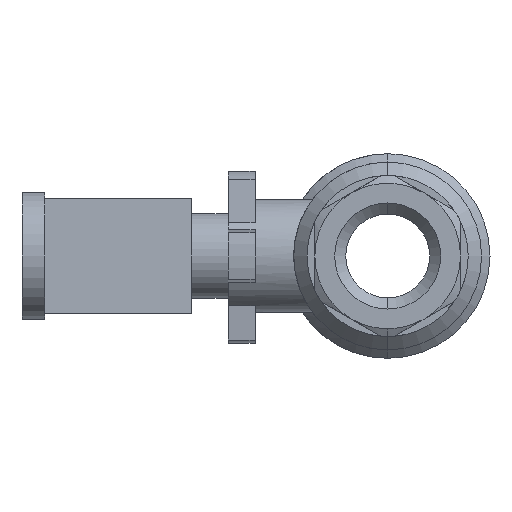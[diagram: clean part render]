
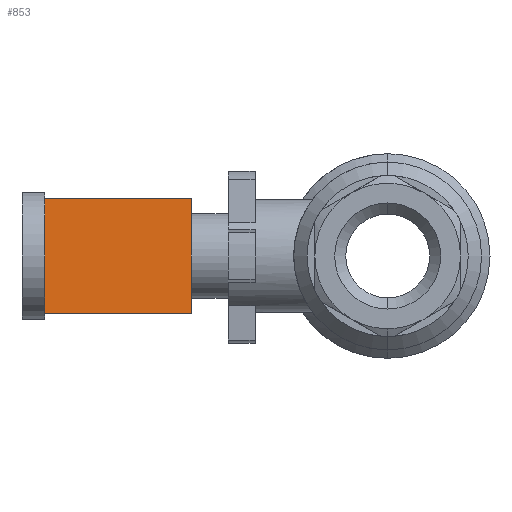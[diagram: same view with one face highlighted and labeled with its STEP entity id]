
A CAD part, left-side view. The second image highlights one B-rep face of the part: STEP entity #853.
In plain terms, the highlighted planar face has unit normal (-0.707, -0.707, 0).
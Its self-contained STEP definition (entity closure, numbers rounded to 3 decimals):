
#59 = ORIENTED_EDGE ( 'NONE', *, *, #3614, .F. ) ;
#210 = VERTEX_POINT ( 'NONE', #1340 ) ;
#211 = PLANE ( 'NONE',  #3373 ) ;
#257 = ORIENTED_EDGE ( 'NONE', *, *, #2356, .F. ) ;
#309 = EDGE_CURVE ( 'NONE', #1157, #210, #2517, .T. ) ;
#341 = DIRECTION ( 'NONE',  ( 0.707, 0.707, 0. ) ) ;
#503 = VERTEX_POINT ( 'NONE', #2258 ) ;
#562 = CARTESIAN_POINT ( 'NONE',  ( -31.75, 51.6, -8.5 ) ) ;
#687 = FACE_OUTER_BOUND ( 'NONE', #2036, .T. ) ;
#853 = ADVANCED_FACE ( 'NONE', ( #687 ), #211, .F. ) ;
#873 = ORIENTED_EDGE ( 'NONE', *, *, #309, .T. ) ;
#1123 = LINE ( 'NONE', #1871, #3554 ) ;
#1157 = VERTEX_POINT ( 'NONE', #3216 ) ;
#1340 = CARTESIAN_POINT ( 'NONE',  ( -9.4, 29.25, -8.5 ) ) ;
#1369 = VECTOR ( 'NONE', #2499, 1000. ) ;
#1744 = DIRECTION ( 'NONE',  ( 0.707, -0.707, 0. ) ) ;
#1871 = CARTESIAN_POINT ( 'NONE',  ( -31.75, 51.6, 8.5 ) ) ;
#2036 = EDGE_LOOP ( 'NONE', ( #873, #257, #59, #3210 ) ) ;
#2200 = DIRECTION ( 'NONE',  ( 0.707, -0.707, 0. ) ) ;
#2258 = CARTESIAN_POINT ( 'NONE',  ( -31.75, 51.6, 8.5 ) ) ;
#2356 = EDGE_CURVE ( 'NONE', #3638, #210, #4086, .T. ) ;
#2455 = DIRECTION ( 'NONE',  ( -0.707, 0.707, 0. ) ) ;
#2499 = DIRECTION ( 'NONE',  ( 0., 0., -1. ) ) ;
#2517 = LINE ( 'NONE', #562, #3237 ) ;
#2560 = EDGE_CURVE ( 'NONE', #503, #1157, #3929, .T. ) ;
#2803 = CARTESIAN_POINT ( 'NONE',  ( -9.4, 29.25, 8.5 ) ) ;
#2961 = CARTESIAN_POINT ( 'NONE',  ( -31.75, 51.6, 8.5 ) ) ;
#3210 = ORIENTED_EDGE ( 'NONE', *, *, #2560, .T. ) ;
#3216 = CARTESIAN_POINT ( 'NONE',  ( -31.75, 51.6, -8.5 ) ) ;
#3237 = VECTOR ( 'NONE', #1744, 1000. ) ;
#3274 = DIRECTION ( 'NONE',  ( 0., 0., -1. ) ) ;
#3373 = AXIS2_PLACEMENT_3D ( 'NONE', #2961, #341, #2455 ) ;
#3554 = VECTOR ( 'NONE', #2200, 1000. ) ;
#3574 = CARTESIAN_POINT ( 'NONE',  ( -31.75, 51.6, 8.5 ) ) ;
#3614 = EDGE_CURVE ( 'NONE', #503, #3638, #1123, .T. ) ;
#3638 = VERTEX_POINT ( 'NONE', #4067 ) ;
#3830 = VECTOR ( 'NONE', #3274, 1000. ) ;
#3929 = LINE ( 'NONE', #3574, #3830 ) ;
#4067 = CARTESIAN_POINT ( 'NONE',  ( -9.4, 29.25, 8.5 ) ) ;
#4086 = LINE ( 'NONE', #2803, #1369 ) ;
